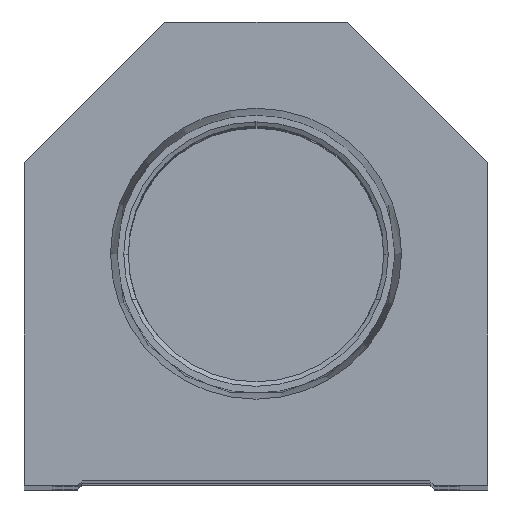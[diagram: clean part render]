
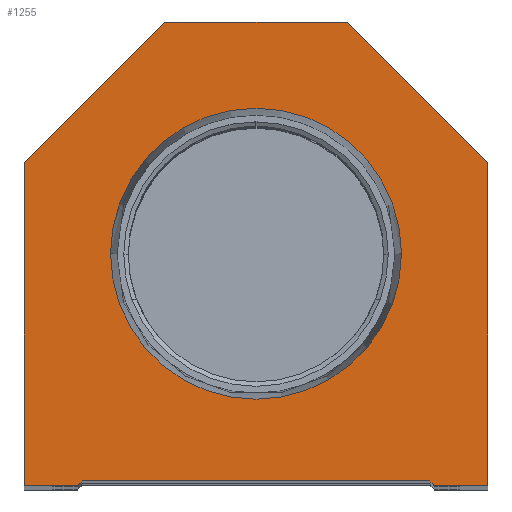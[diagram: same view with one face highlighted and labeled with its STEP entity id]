
A CAD part, top view. The second image highlights one B-rep face of the part: STEP entity #1255.
In plain terms, the highlighted planar face has unit normal (0, 0, 1).
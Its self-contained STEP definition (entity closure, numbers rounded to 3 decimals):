
#211 = VERTEX_POINT ( 'NONE', #25580 ) ;
#233 = DIRECTION ( 'NONE',  ( 1., 0., 0. ) ) ;
#487 = LINE ( 'NONE', #2731, #25958 ) ;
#941 = LINE ( 'NONE', #21168, #6431 ) ;
#1255 = ADVANCED_FACE ( 'NONE', ( #11585, #5107 ), #25464, .T. ) ;
#1288 = CARTESIAN_POINT ( 'NONE',  ( -19.05, 0.5, 0. ) ) ;
#2100 = EDGE_CURVE ( 'NONE', #10146, #12728, #4265, .T. ) ;
#2731 = CARTESIAN_POINT ( 'NONE',  ( -19.05, 0., 0. ) ) ;
#2928 = EDGE_CURVE ( 'NONE', #28811, #19748, #7732, .T. ) ;
#3190 = LINE ( 'NONE', #23125, #7287 ) ;
#3723 = CIRCLE ( 'NONE', #8513, 15.947 ) ;
#3836 = DIRECTION ( 'NONE',  ( -1., 0., 0. ) ) ;
#4265 = LINE ( 'NONE', #15255, #28676 ) ;
#4581 = ORIENTED_EDGE ( 'NONE', *, *, #18005, .F. ) ;
#4923 = EDGE_CURVE ( 'NONE', #10810, #10146, #12169, .T. ) ;
#4954 = DIRECTION ( 'NONE',  ( 0., 0., 1. ) ) ;
#4970 = CARTESIAN_POINT ( 'NONE',  ( 25.4, 35.4, 0. ) ) ;
#5107 = FACE_OUTER_BOUND ( 'NONE', #29635, .T. ) ;
#6246 = ORIENTED_EDGE ( 'NONE', *, *, #2100, .T. ) ;
#6431 = VECTOR ( 'NONE', #23855, 1000. ) ;
#6784 = EDGE_CURVE ( 'NONE', #15189, #16173, #3723, .T. ) ;
#6985 = ORIENTED_EDGE ( 'NONE', *, *, #16560, .T. ) ;
#7038 = CARTESIAN_POINT ( 'NONE',  ( -25.4, 35.4, 0. ) ) ;
#7242 = EDGE_CURVE ( 'NONE', #15078, #211, #18696, .T. ) ;
#7287 = VECTOR ( 'NONE', #9802, 1000. ) ;
#7732 = LINE ( 'NONE', #1288, #11789 ) ;
#8513 = AXIS2_PLACEMENT_3D ( 'NONE', #23140, #23290, #233 ) ;
#9320 = DIRECTION ( 'NONE',  ( 1., 0., 0. ) ) ;
#9618 = DIRECTION ( 'NONE',  ( -0.707, 0.707, 0. ) ) ;
#9802 = DIRECTION ( 'NONE',  ( 0.707, -0.707, 0. ) ) ;
#10146 = VERTEX_POINT ( 'NONE', #7038 ) ;
#10570 = ORIENTED_EDGE ( 'NONE', *, *, #24865, .T. ) ;
#10762 = LINE ( 'NONE', #28556, #19765 ) ;
#10810 = VERTEX_POINT ( 'NONE', #16820 ) ;
#10875 = VERTEX_POINT ( 'NONE', #15328 ) ;
#11110 = AXIS2_PLACEMENT_3D ( 'NONE', #21106, #23046, #18714 ) ;
#11316 = VECTOR ( 'NONE', #18875, 1000. ) ;
#11585 = FACE_BOUND ( 'NONE', #12970, .T. ) ;
#11789 = VECTOR ( 'NONE', #21812, 1000. ) ;
#11913 = DIRECTION ( 'NONE',  ( 1., 0., 0. ) ) ;
#12169 = LINE ( 'NONE', #12322, #11316 ) ;
#12322 = CARTESIAN_POINT ( 'NONE',  ( -25.4, 35.4, 0. ) ) ;
#12728 = VERTEX_POINT ( 'NONE', #27736 ) ;
#12970 = EDGE_LOOP ( 'NONE', ( #4581, #17269 ) ) ;
#13510 = CIRCLE ( 'NONE', #11110, 15.947 ) ;
#14154 = LINE ( 'NONE', #4970, #14531 ) ;
#14531 = VECTOR ( 'NONE', #9618, 1000. ) ;
#14859 = ORIENTED_EDGE ( 'NONE', *, *, #26368, .T. ) ;
#15078 = VERTEX_POINT ( 'NONE', #21614 ) ;
#15189 = VERTEX_POINT ( 'NONE', #23078 ) ;
#15199 = CARTESIAN_POINT ( 'NONE',  ( 19.05, 0.5, 0. ) ) ;
#15255 = CARTESIAN_POINT ( 'NONE',  ( -25.4, 0., 0. ) ) ;
#15328 = CARTESIAN_POINT ( 'NONE',  ( 19.55, 0., 0. ) ) ;
#16173 = VERTEX_POINT ( 'NONE', #19526 ) ;
#16560 = EDGE_CURVE ( 'NONE', #19975, #10810, #10762, .T. ) ;
#16820 = CARTESIAN_POINT ( 'NONE',  ( -10., 50.8, 0. ) ) ;
#16922 = CARTESIAN_POINT ( 'NONE',  ( 25.4, 0., 0. ) ) ;
#17157 = DIRECTION ( 'NONE',  ( 0.707, 0.707, 0. ) ) ;
#17269 = ORIENTED_EDGE ( 'NONE', *, *, #6784, .F. ) ;
#17297 = EDGE_CURVE ( 'NONE', #19748, #10875, #3190, .T. ) ;
#17430 = EDGE_CURVE ( 'NONE', #24574, #28811, #24152, .T. ) ;
#18005 = EDGE_CURVE ( 'NONE', #16173, #15189, #13510, .T. ) ;
#18696 = LINE ( 'NONE', #16922, #29095 ) ;
#18714 = DIRECTION ( 'NONE',  ( 1., 0., 0. ) ) ;
#18875 = DIRECTION ( 'NONE',  ( -0.707, -0.707, 0. ) ) ;
#18907 = ORIENTED_EDGE ( 'NONE', *, *, #17297, .T. ) ;
#19135 = CARTESIAN_POINT ( 'NONE',  ( -19.05, 0.5, 0. ) ) ;
#19526 = CARTESIAN_POINT ( 'NONE',  ( 15.947, 25.4, 0. ) ) ;
#19748 = VERTEX_POINT ( 'NONE', #15199 ) ;
#19765 = VECTOR ( 'NONE', #3836, 1000. ) ;
#19975 = VERTEX_POINT ( 'NONE', #24092 ) ;
#20912 = CARTESIAN_POINT ( 'NONE',  ( -19.55, 0., 0. ) ) ;
#21106 = CARTESIAN_POINT ( 'NONE',  ( 0., 25.4, 0. ) ) ;
#21168 = CARTESIAN_POINT ( 'NONE',  ( 19.05, 0., 0. ) ) ;
#21614 = CARTESIAN_POINT ( 'NONE',  ( 25.4, 0., 0. ) ) ;
#21649 = VECTOR ( 'NONE', #17157, 1000. ) ;
#21812 = DIRECTION ( 'NONE',  ( 1., 0., 0. ) ) ;
#23046 = DIRECTION ( 'NONE',  ( 0., 0., 1. ) ) ;
#23078 = CARTESIAN_POINT ( 'NONE',  ( -15.947, 25.4, 0. ) ) ;
#23125 = CARTESIAN_POINT ( 'NONE',  ( 9.775, 9.775, 0. ) ) ;
#23140 = CARTESIAN_POINT ( 'NONE',  ( 0., 25.4, 0. ) ) ;
#23290 = DIRECTION ( 'NONE',  ( 0., 0., 1. ) ) ;
#23381 = ORIENTED_EDGE ( 'NONE', *, *, #4923, .T. ) ;
#23693 = ORIENTED_EDGE ( 'NONE', *, *, #2928, .T. ) ;
#23855 = DIRECTION ( 'NONE',  ( 1., 0., 0. ) ) ;
#24092 = CARTESIAN_POINT ( 'NONE',  ( 10., 50.8, 0. ) ) ;
#24152 = LINE ( 'NONE', #28492, #21649 ) ;
#24188 = DIRECTION ( 'NONE',  ( 0., -1., 0. ) ) ;
#24574 = VERTEX_POINT ( 'NONE', #20912 ) ;
#24856 = EDGE_CURVE ( 'NONE', #211, #19975, #14154, .T. ) ;
#24865 = EDGE_CURVE ( 'NONE', #12728, #24574, #487, .T. ) ;
#25464 = PLANE ( 'NONE',  #28098 ) ;
#25580 = CARTESIAN_POINT ( 'NONE',  ( 25.4, 35.4, 0. ) ) ;
#25769 = CARTESIAN_POINT ( 'NONE',  ( 0., 0., 0. ) ) ;
#25958 = VECTOR ( 'NONE', #11913, 1000. ) ;
#26007 = DIRECTION ( 'NONE',  ( 0., 1., 0. ) ) ;
#26368 = EDGE_CURVE ( 'NONE', #10875, #15078, #941, .T. ) ;
#26378 = ORIENTED_EDGE ( 'NONE', *, *, #24856, .T. ) ;
#27736 = CARTESIAN_POINT ( 'NONE',  ( -25.4, 0., 0. ) ) ;
#27950 = ORIENTED_EDGE ( 'NONE', *, *, #17430, .T. ) ;
#28098 = AXIS2_PLACEMENT_3D ( 'NONE', #25769, #4954, #9320 ) ;
#28492 = CARTESIAN_POINT ( 'NONE',  ( -9.775, 9.775, 0. ) ) ;
#28556 = CARTESIAN_POINT ( 'NONE',  ( 10., 50.8, 0. ) ) ;
#28676 = VECTOR ( 'NONE', #24188, 1000. ) ;
#28811 = VERTEX_POINT ( 'NONE', #19135 ) ;
#29013 = ORIENTED_EDGE ( 'NONE', *, *, #7242, .T. ) ;
#29095 = VECTOR ( 'NONE', #26007, 1000. ) ;
#29635 = EDGE_LOOP ( 'NONE', ( #10570, #27950, #23693, #18907, #14859, #29013, #26378, #6985, #23381, #6246 ) ) ;
